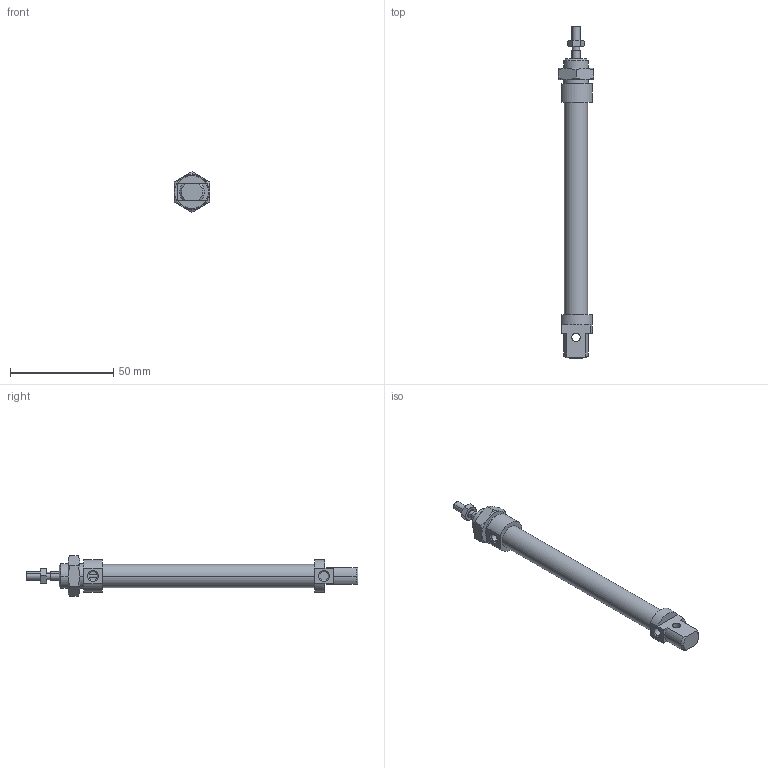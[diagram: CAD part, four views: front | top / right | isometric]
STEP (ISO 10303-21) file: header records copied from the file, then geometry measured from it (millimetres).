
FILE_DESCRIPTION((''),'2;1');
FILE_NAME('I:\DOC-EDP\Lib-3d\1200\CILINDRI\1280\1280_10_0075.stp','2003-04-07T14:46:27',('maffial1'),(''),'Autodesk Inventor (R) 6.0','Autodesk Inventor (R) 6.0','');
FILE_SCHEMA(('AUTOMOTIVE_DESIGN { 1 0 10303 214 1 1 1 1 }'));
Length unit declared in the file: millimetre
Products named in the file (5): 1280_10_0075; S1280_10_75; 1200_10_05; 1200_10_06; C1280_10_75
Assembly tree (4 placements, depth 2):
  1280_10_0075
    S1280_10_75
    1200_10_05
    1200_10_06
    C1280_10_75
Bounding box: 17 x 161 x 19.63 mm (x, y, z)
Volume: 16646.6 mm3; surface area: 9702.4 mm2
Topology: 4 solids, 4 shells, 117 faces, 261 edges, 158 vertices
Faces by surface type: cone 40, plane 34, cylinder 22, bspline 21
Entity records: 3582 total; most frequent: CARTESIAN_POINT 992, DIRECTION 531, ORIENTED_EDGE 522, EDGE_CURVE 261, AXIS2_PLACEMENT_3D 221, VERTEX_POINT 158, EDGE_LOOP 131, FACE_OUTER_BOUND 117
